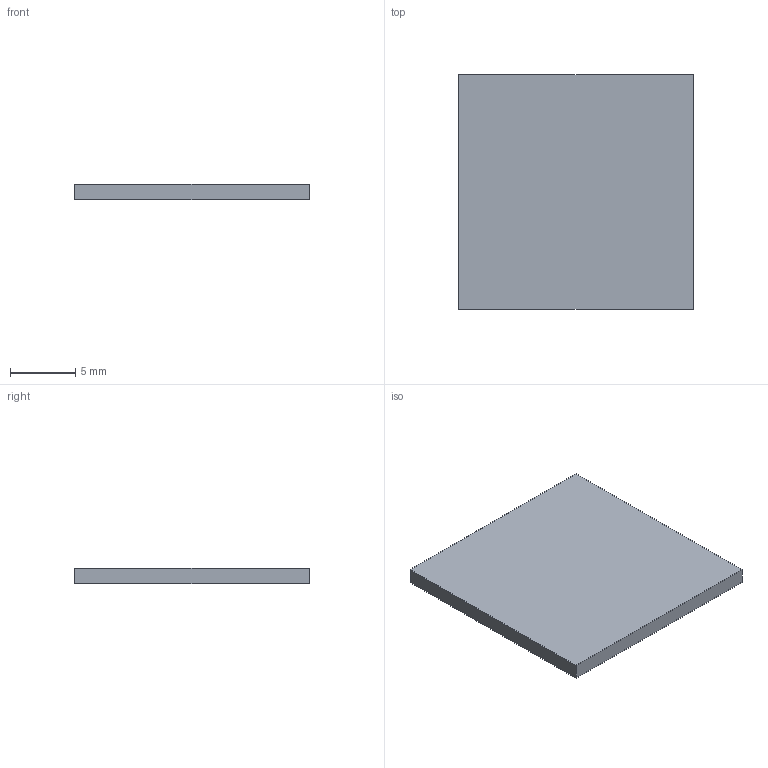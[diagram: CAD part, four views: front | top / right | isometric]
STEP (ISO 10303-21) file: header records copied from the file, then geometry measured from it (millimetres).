
FILE_DESCRIPTION(('Open CASCADE Model'),'2;1');
FILE_NAME('Open CASCADE Shape Model','2026-10-17T17:22:13',('Author'),( 'Open CASCADE'),'Open CASCADE STEP processor 7.9','Open CASCADE 7.9' ,'Unknown');
FILE_SCHEMA(('AUTOMOTIVE_DESIGN { 1 0 10303 214 1 1 1 1 }'));
Length unit declared in the file: millimetre
Products named in the file (1): Open CASCADE STEP translator 7.9 9
Bounding box: 18 x 18 x 1.2 mm (x, y, z)
Volume: 388.8 mm3; surface area: 734.4 mm2
Topology: 1 solids, 1 shells, 6 faces, 12 edges, 8 vertices
Faces by surface type: plane 6
Entity records: 322 total; most frequent: CARTESIAN_POINT 51, DIRECTION 50, LINE 36, VECTOR 36, ORIENTED_EDGE 24, PCURVE 24, DEFINITIONAL_REPRESENTATION 24, EDGE_CURVE 12
